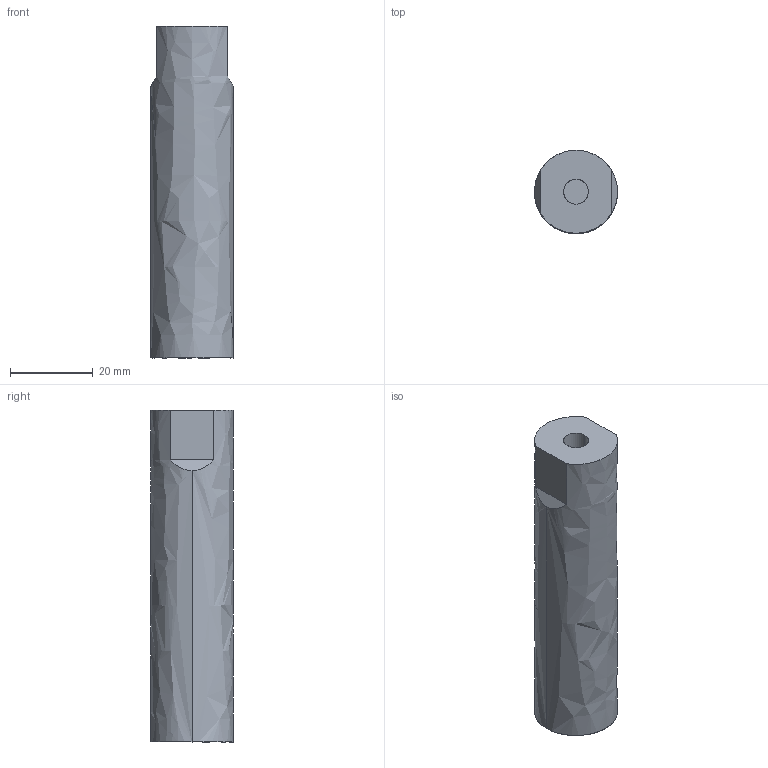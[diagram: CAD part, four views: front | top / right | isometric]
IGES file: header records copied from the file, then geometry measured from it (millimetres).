
Global section: file name: E:\UnigraphicsGraphicData\MISUMI_PRESS-PARTS\IGES\3d_sbvm20-80-r_00159_r00.igs; native system: NX V5.0; preprocessor: UGS NX IGES V5.0; author: MISUMI; date: 20110105.162511; units: millimetre
Bounding box: 20 x 20 x 80 mm (x, y, z)
Surface area: 5854.1 mm2 (no closed solid volume)
Topology: 0 solids, 0 shells, 11 faces, 72 edges, 72 vertices
Faces by surface type: bspline 11
